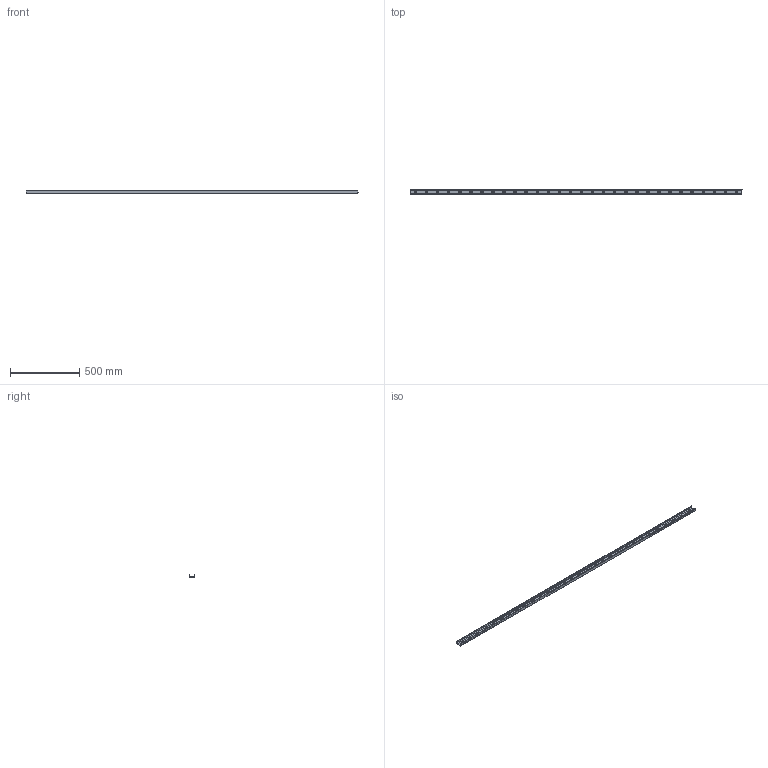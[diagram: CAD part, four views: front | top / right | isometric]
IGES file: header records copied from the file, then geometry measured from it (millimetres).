
Start section: SolidWorks IGES file using analytic representation for surfaces
Global section: file name: C:\Users\IanO\Desktop\43\L1943.ULC43_v2_20180121_IGES\L1943.ULC43-2400.igs; native system: SolidWorks 2017; preprocessor: SolidWorks 2017; author: IanO; date: 190121.085005; units: millimetre
Bounding box: 2400 x 43 x 21 mm (x, y, z)
Surface area: 376495.7 mm2 (no closed solid volume)
Topology: 0 solids, 0 shells, 176 faces, 4614 edges, 4614 vertices
Faces by surface type: revolution 133, bspline 43
